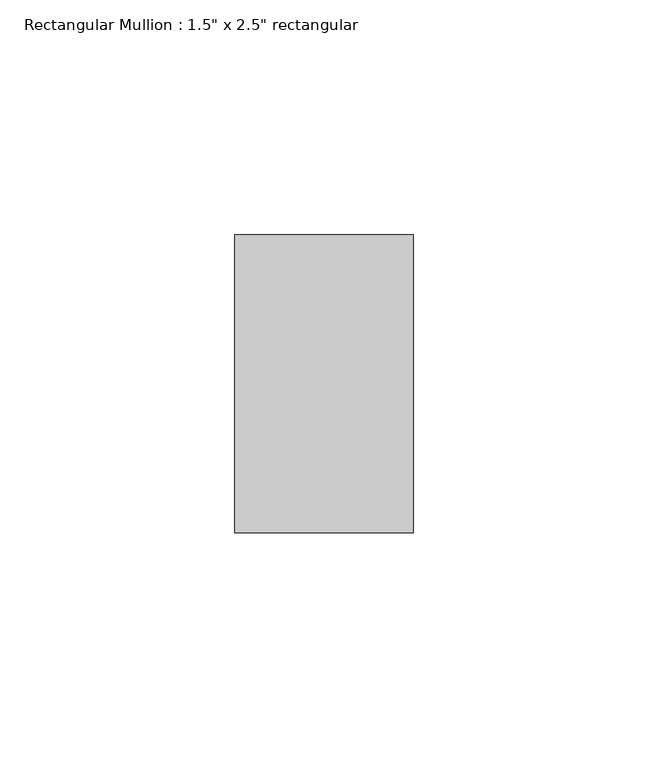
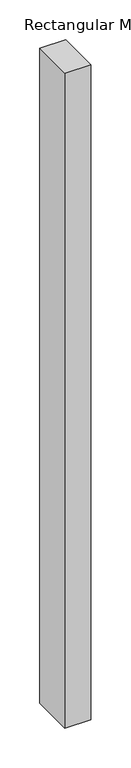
"""IFC4 building model written with IfcOpenShell, lengths in millimetres: member geometry."""

from ifc_helpers import new_model, si_unit, frame, origin, place, context, project, spatial, polyline, outline, extrude, source, transform, mapped, element, save


def member_3d7f9b7e(model_context):
    return source(origin(), model_context, "Body", "SweptSolid", [
        extrude(outline(polyline([(0.0, 31.75), (0.0, -31.75), (-38.1, -31.75), (-38.1, 31.75), (0.0, 31.75)])), frame((0.0, 0.0, -1009.65), z_axis=(0.0, 0.0, 1.0), x_axis=(1.0, 0.0, 0.0)), (0.0, 0.0, 1.0), 1009.65),
    ])


if __name__ == "__main__":
    model = new_model("IFC4")
    model_context = context("Model", 3, world=origin())
    ifc_project = project(units=[si_unit("LENGTHUNIT", "METRE", prefix="MILLI")], contexts=[model_context])
    site = spatial("IfcSite", under=ifc_project)
    building = spatial("IfcBuilding", under=site)
    placement = place(None, origin())
    member_shape = member_3d7f9b7e(model_context)
    element("IfcMember", 1, ObjectType="Rectangular Mullion : 1.5\" x 2.5\" rectangular", at=placement, inside=building, context=model_context, shape_type="MappedRepresentation", body=[
        mapped(member_shape, transform((0.0, 0.0, 0.0), x_axis=(1.0, 0.0, 0.0), y_axis=(0.0, 1.0, 0.0), z_axis=(0.0, 0.0, 1.0))),
    ])
    save(model, "model.ifc")
